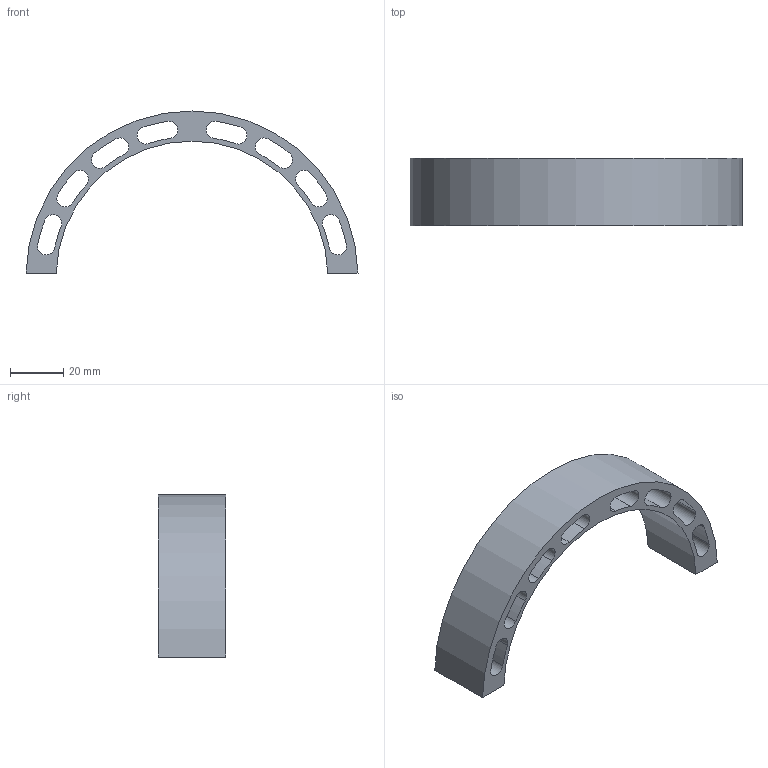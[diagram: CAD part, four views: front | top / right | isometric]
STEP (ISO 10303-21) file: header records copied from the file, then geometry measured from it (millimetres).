
FILE_DESCRIPTION(/* description */ (''),/* implementation_level */ '2;1');
FILE_NAME(/* name */ '2504_ePic_arc_L1_H.stp',/* time_stamp */ '2025-05-05T16:45:28+02:00',/* author */ (''),/* organization */ (''),/* preprocessor_version */ 'ST-DEVELOPER v19.4',/* originating_system */ 'SIEMENS PLM Software NX2306.5001',/* authorisation */ '');
FILE_SCHEMA (('AP203_CONFIGURATION_CONTROLLED_3D_DESIGN_OF_MECHANICAL_PARTS_AND_ASSEMBLIES_MIM_LF { 1 0 10303 403 2 1 2}'));
Length unit declared in the file: millimetre
Products named in the file (1): ePic-L1_FrameFPC-hSide.v5_dwg_objects
Bounding box: 124.76 x 25.4 x 60.9 mm (x, y, z)
Volume: 31847.5 mm3; surface area: 19796.1 mm2
Topology: 1 solids, 1 shells, 38 faces, 108 edges, 72 vertices
Faces by surface type: cylinder 34, plane 4
Entity records: 1398 total; most frequent: DIRECTION 254, CARTESIAN_POINT 219, ORIENTED_EDGE 216, EDGE_CURVE 108, AXIS2_PLACEMENT_3D 107, VERTEX_POINT 72, CIRCLE 68, EDGE_LOOP 54
